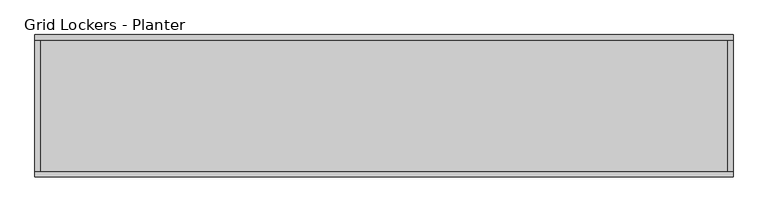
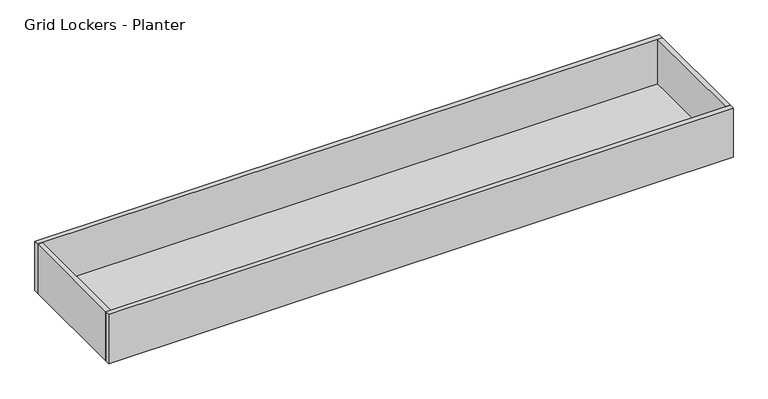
"""IFC4 building model written with IfcOpenShell, lengths in millimetres: furniture geometry, Grid Lockers - Planter : Grid -  Planter 2400."""

from ifc_helpers import new_model, si_unit, origin, origin_with_axes, place, context, project, spatial, polyline, outline, extrude, source, transform, mapped, element, save


def grid_lockers_planter_de8f3f7c(model_context):
    return source(origin(), model_context, "Body", "SweptSolid", [
        extrude(outline(polyline([(0.0, -18.0), (0.0, 0.0), (2400.0, 0.0), (2400.0, -18.0), (0.0, -18.0)])), origin_with_axes(), (0.0, 0.0, 1.0), 200.0),
        extrude(outline(polyline([(0.0, -490.0), (0.0, -472.0), (2400.0, -472.0), (2400.0, -490.0), (0.0, -490.0)])), origin_with_axes(), (0.0, 0.0, 1.0), 200.0),
        extrude(outline(polyline([(2382.0, -18.0), (2400.0, -18.0), (2400.0, -472.0), (2382.0, -472.0), (2382.0, -18.0)])), origin_with_axes(), (0.0, 0.0, 1.0), 200.0),
        extrude(outline(polyline([(0.0, -18.0), (18.0, -18.0), (18.0, -472.0), (0.0, -472.0), (0.0, -18.0)])), origin_with_axes(), (0.0, 0.0, 1.0), 200.0),
        extrude(outline(polyline([(2382.0, -472.0), (18.0, -472.0), (18.0, -18.0), (2382.0, -18.0), (2382.0, -472.0)])), origin_with_axes(), (0.0, 0.0, 1.0), 18.0),
    ])


if __name__ == "__main__":
    model = new_model("IFC4")
    model_context = context("Model", 3, world=origin())
    ifc_project = project(units=[si_unit("LENGTHUNIT", "METRE", prefix="MILLI")], contexts=[model_context])
    site = spatial("IfcSite", under=ifc_project)
    building = spatial("IfcBuilding", under=site)
    placement = place(None, origin())
    grid_lockers_planter_shape = grid_lockers_planter_de8f3f7c(model_context)
    element("IfcFurniture", 1, ObjectType="Grid Lockers - Planter : Grid -  Planter 2400", at=placement, inside=building, context=model_context, shape_type="MappedRepresentation", body=[
        mapped(grid_lockers_planter_shape, transform((0.0, 0.0, 0.0), x_axis=(1.0, 0.0, 0.0), y_axis=(0.0, 1.0, 0.0), z_axis=(0.0, 0.0, 1.0))),
    ])
    save(model, "model.ifc")
